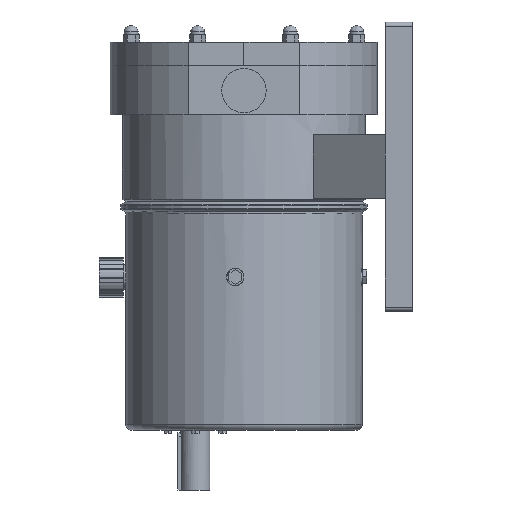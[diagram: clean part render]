
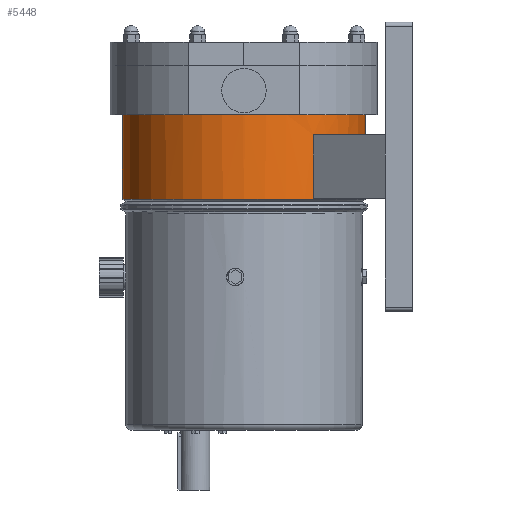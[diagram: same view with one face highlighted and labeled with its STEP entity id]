
A CAD part, left-side view. The second image highlights one B-rep face of the part: STEP entity #5448.
In plain terms, the highlighted cylindrical face has radius 210 mm (diameter 420 mm), a full revolution.
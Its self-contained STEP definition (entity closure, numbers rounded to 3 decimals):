
#126=CYLINDRICAL_SURFACE('',#5854,210.);
#177=FACE_BOUND('',#603,.T.);
#178=FACE_BOUND('',#604,.T.);
#269=FACE_OUTER_BOUND('',#602,.T.);
#602=EDGE_LOOP('',(#3961,#3962,#3963,#3964,#3965,#3966,#3967,#3968,#3969));
#603=EDGE_LOOP('',(#3970,#3971,#3972,#3973));
#604=EDGE_LOOP('',(#3974,#3975,#3976,#3977));
#1051=LINE('',#8593,#1621);
#1052=LINE('',#8598,#1622);
#1053=LINE('',#8601,#1623);
#1054=LINE('',#8606,#1624);
#1055=LINE('',#8609,#1625);
#1621=VECTOR('',#6707,210.);
#1622=VECTOR('',#6710,110.);
#1623=VECTOR('',#6713,110.);
#1624=VECTOR('',#6716,110.);
#1625=VECTOR('',#6719,110.);
#2059=CIRCLE('',#5827,210.);
#2060=CIRCLE('',#5831,210.);
#2063=CIRCLE('',#5838,210.);
#2069=CIRCLE('',#5845,210.);
#2070=CIRCLE('',#5846,210.);
#2075=CIRCLE('',#5855,210.);
#2076=CIRCLE('',#5856,210.);
#2077=CIRCLE('',#5857,210.);
#2078=CIRCLE('',#5858,210.);
#2079=CIRCLE('',#5859,210.);
#2080=CIRCLE('',#5860,210.);
#2382=VERTEX_POINT('',#8451);
#2383=VERTEX_POINT('',#8453);
#2396=VERTEX_POINT('',#8494);
#2397=VERTEX_POINT('',#8495);
#2409=VERTEX_POINT('',#8552);
#2414=VERTEX_POINT('',#8589);
#2415=VERTEX_POINT('',#8590);
#2416=VERTEX_POINT('',#8594);
#2417=VERTEX_POINT('',#8595);
#2418=VERTEX_POINT('',#8597);
#2419=VERTEX_POINT('',#8599);
#2420=VERTEX_POINT('',#8602);
#2421=VERTEX_POINT('',#8603);
#2422=VERTEX_POINT('',#8605);
#2423=VERTEX_POINT('',#8607);
#2954=EDGE_CURVE('',#2382,#2383,#2059,.T.);
#2963=EDGE_CURVE('',#2396,#2397,#2060,.T.);
#2978=EDGE_CURVE('',#2383,#2396,#2063,.T.);
#2984=EDGE_CURVE('',#2397,#2409,#2069,.T.);
#2985=EDGE_CURVE('',#2409,#2382,#2070,.T.);
#2996=EDGE_CURVE('',#2414,#2415,#2075,.T.);
#2997=EDGE_CURVE('',#2415,#2414,#2076,.T.);
#2998=EDGE_CURVE('',#2415,#2409,#1051,.T.);
#2999=EDGE_CURVE('',#2416,#2417,#2077,.T.);
#3000=EDGE_CURVE('',#2417,#2418,#1052,.T.);
#3001=EDGE_CURVE('',#2418,#2419,#2078,.T.);
#3002=EDGE_CURVE('',#2419,#2416,#1053,.T.);
#3003=EDGE_CURVE('',#2420,#2421,#2079,.T.);
#3004=EDGE_CURVE('',#2421,#2422,#1054,.T.);
#3005=EDGE_CURVE('',#2422,#2423,#2080,.T.);
#3006=EDGE_CURVE('',#2423,#2420,#1055,.T.);
#3961=ORIENTED_EDGE('',*,*,#2996,.F.);
#3962=ORIENTED_EDGE('',*,*,#2997,.F.);
#3963=ORIENTED_EDGE('',*,*,#2998,.T.);
#3964=ORIENTED_EDGE('',*,*,#2984,.F.);
#3965=ORIENTED_EDGE('',*,*,#2963,.F.);
#3966=ORIENTED_EDGE('',*,*,#2978,.F.);
#3967=ORIENTED_EDGE('',*,*,#2954,.F.);
#3968=ORIENTED_EDGE('',*,*,#2985,.F.);
#3969=ORIENTED_EDGE('',*,*,#2998,.F.);
#3970=ORIENTED_EDGE('',*,*,#2999,.T.);
#3971=ORIENTED_EDGE('',*,*,#3000,.T.);
#3972=ORIENTED_EDGE('',*,*,#3001,.T.);
#3973=ORIENTED_EDGE('',*,*,#3002,.T.);
#3974=ORIENTED_EDGE('',*,*,#3003,.T.);
#3975=ORIENTED_EDGE('',*,*,#3004,.T.);
#3976=ORIENTED_EDGE('',*,*,#3005,.T.);
#3977=ORIENTED_EDGE('',*,*,#3006,.T.);
#5448=ADVANCED_FACE('',(#269,#177,#178),#126,.T.);
#5827=AXIS2_PLACEMENT_3D('',#8472,#6623,#6624);
#5831=AXIS2_PLACEMENT_3D('',#8496,#6638,#6639);
#5838=AXIS2_PLACEMENT_3D('',#8542,#6663,#6664);
#5845=AXIS2_PLACEMENT_3D('',#8553,#6677,#6678);
#5846=AXIS2_PLACEMENT_3D('',#8554,#6679,#6680);
#5854=AXIS2_PLACEMENT_3D('',#8588,#6701,#6702);
#5855=AXIS2_PLACEMENT_3D('',#8591,#6703,#6704);
#5856=AXIS2_PLACEMENT_3D('',#8592,#6705,#6706);
#5857=AXIS2_PLACEMENT_3D('',#8596,#6708,#6709);
#5858=AXIS2_PLACEMENT_3D('',#8600,#6711,#6712);
#5859=AXIS2_PLACEMENT_3D('',#8604,#6714,#6715);
#5860=AXIS2_PLACEMENT_3D('',#8608,#6717,#6718);
#6623=DIRECTION('center_axis',(0.,0.,1.));
#6624=DIRECTION('ref_axis',(0.,1.,0.));
#6638=DIRECTION('center_axis',(0.,0.,1.));
#6639=DIRECTION('ref_axis',(0.,1.,0.));
#6663=DIRECTION('center_axis',(0.,0.,1.));
#6664=DIRECTION('ref_axis',(0.,1.,0.));
#6677=DIRECTION('center_axis',(0.,0.,1.));
#6678=DIRECTION('ref_axis',(0.,1.,0.));
#6679=DIRECTION('center_axis',(0.,0.,1.));
#6680=DIRECTION('ref_axis',(0.,1.,0.));
#6701=DIRECTION('center_axis',(0.,0.,-1.));
#6702=DIRECTION('ref_axis',(0.,1.,0.));
#6703=DIRECTION('center_axis',(0.,0.,-1.));
#6704=DIRECTION('ref_axis',(0.,1.,0.));
#6705=DIRECTION('center_axis',(0.,0.,-1.));
#6706=DIRECTION('ref_axis',(0.,1.,0.));
#6707=DIRECTION('',(0.,0.,1.));
#6708=DIRECTION('center_axis',(0.,0.,-1.));
#6709=DIRECTION('ref_axis',(0.,1.,0.));
#6710=DIRECTION('',(0.,0.,1.));
#6711=DIRECTION('center_axis',(0.,0.,1.));
#6712=DIRECTION('ref_axis',(0.,1.,0.));
#6713=DIRECTION('',(0.,0.,-1.));
#6714=DIRECTION('center_axis',(0.,0.,-1.));
#6715=DIRECTION('ref_axis',(0.,1.,0.));
#6716=DIRECTION('',(0.,0.,1.));
#6717=DIRECTION('center_axis',(0.,0.,1.));
#6718=DIRECTION('ref_axis',(0.,1.,0.));
#6719=DIRECTION('',(0.,0.,-1.));
#8451=CARTESIAN_POINT('',(209.99,-2.049,-125.1));
#8453=CARTESIAN_POINT('',(209.99,2.049,-125.1));
#8472=CARTESIAN_POINT('Origin',(0.,0.,-125.1));
#8494=CARTESIAN_POINT('',(-209.99,2.049,-125.1));
#8495=CARTESIAN_POINT('',(-209.99,-2.049,-125.1));
#8496=CARTESIAN_POINT('Origin',(0.,0.,-125.1));
#8542=CARTESIAN_POINT('Origin',(0.,0.,-125.1));
#8552=CARTESIAN_POINT('',(0.,-210.,-125.1));
#8553=CARTESIAN_POINT('Origin',(0.,0.,-125.1));
#8554=CARTESIAN_POINT('Origin',(0.,0.,-125.1));
#8588=CARTESIAN_POINT('Origin',(0.,0.,-198.293));
#8589=CARTESIAN_POINT('',(0.,210.,-271.486));
#8590=CARTESIAN_POINT('',(0.,-210.,-271.486));
#8591=CARTESIAN_POINT('Origin',(0.,0.,-271.486));
#8592=CARTESIAN_POINT('Origin',(0.,0.,-271.486));
#8593=CARTESIAN_POINT('',(0.,-210.,-198.293));
#8594=CARTESIAN_POINT('',(172.515,-119.744,-270.1));
#8595=CARTESIAN_POINT('',(108.55,-179.769,-270.1));
#8596=CARTESIAN_POINT('Origin',(0.,0.,-270.1));
#8597=CARTESIAN_POINT('',(108.55,-179.769,-160.1));
#8598=CARTESIAN_POINT('',(108.55,-179.769,-270.1));
#8599=CARTESIAN_POINT('',(172.515,-119.744,-160.1));
#8600=CARTESIAN_POINT('Origin',(0.,0.,-160.1));
#8601=CARTESIAN_POINT('',(172.515,-119.744,-160.1));
#8602=CARTESIAN_POINT('',(-108.55,-179.769,-270.1));
#8603=CARTESIAN_POINT('',(-172.515,-119.744,-270.1));
#8604=CARTESIAN_POINT('Origin',(0.,0.,-270.1));
#8605=CARTESIAN_POINT('',(-172.515,-119.744,-160.1));
#8606=CARTESIAN_POINT('',(-172.515,-119.744,-270.1));
#8607=CARTESIAN_POINT('',(-108.55,-179.769,-160.1));
#8608=CARTESIAN_POINT('Origin',(0.,0.,-160.1));
#8609=CARTESIAN_POINT('',(-108.55,-179.769,-160.1));
